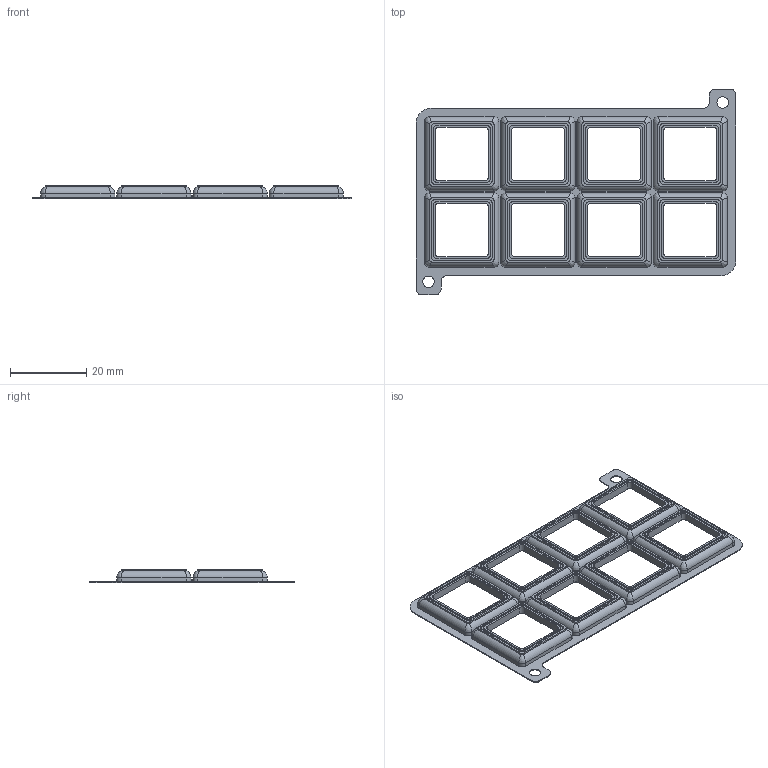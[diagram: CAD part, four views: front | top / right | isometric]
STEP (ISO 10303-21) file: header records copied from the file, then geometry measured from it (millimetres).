
FILE_DESCRIPTION(/* description */ ('STEP AP242 Edition 2','CAx-IF Rec.Pracs.---Representation and Presentation of Product Manufacturing Information (PMI)---4.0---2014-10-13','CAx-IF Rec.Pracs.---3D Tessellated Geometry---0.4---2014-09-14','2;1','CAx-IF Rec.Pracs.---User Defined Attributes---1.5---2016-08-15'),/* implementation_level */ '2;1');
FILE_NAME(/* name */ 'Assembly 1 - Part 1 (11)',/* time_stamp */ '2026-07-23T10:03:21Z',/* author */ (''),/* organization */ (''),/* preprocessor_version */ 'ST-DEVELOPER v20',/* originating_system */ 'ONSHAPE BY PTC INC, 1.218',/* authorisation */ ' ');
FILE_SCHEMA (('AP242_MANAGED_MODEL_BASED_3D_ENGINEERING_MIM_LF { 1 0 10303 442 3 1 4 }'));
Length unit declared in the file: metre
Products named in the file (1): Part 1
Bounding box: 84 x 54 x 3.5 mm (x, y, z)
Volume: 2551.9 mm3; surface area: 9469.8 mm2
Topology: 1 solids, 1 shells, 700 faces, 1910 edges, 1252 vertices
Faces by surface type: cylinder 330, plane 306, bspline 64
Full cylindrical faces by diameter (mm): 3 x2
Entity records: 23426 total; most frequent: CARTESIAN_POINT 5717, ORIENTED_EDGE 3816, DIRECTION 3586, EDGE_CURVE 1908, VERTEX_POINT 1252, AXIS2_PLACEMENT_3D 1233, LINE 1120, VECTOR 1120
